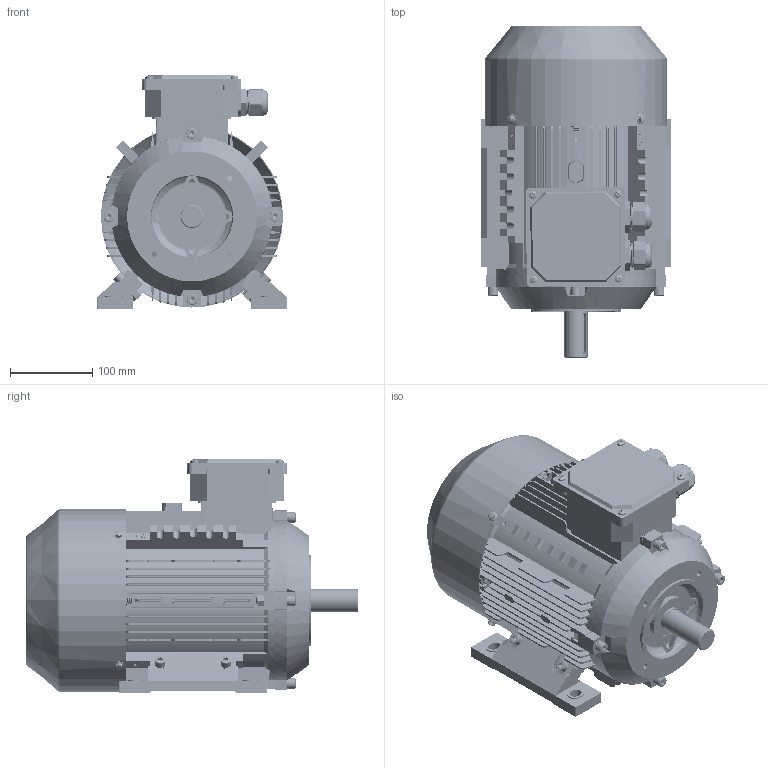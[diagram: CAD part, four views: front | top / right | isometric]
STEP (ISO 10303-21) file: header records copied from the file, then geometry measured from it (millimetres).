
FILE_DESCRIPTION (( 'STEP AP203' ), '1' );
FILE_NAME ('ME3-112B34 3D.STEP', '2024-07-12T07:13:22', ( 'User' ), ( 'China' ), 'SwSTEP 2.0', 'SolidWorks 2018', '' );
FILE_SCHEMA (( 'CONFIG_CONTROL_DESIGN' ));
Length unit declared in the file: millimetre
Products named in the file (19): M24 蹟杶; hexagon socket head cap screws gb_GB_FASTENER_SCREWS_HSHCS M8X40-S; M24 蹟杶簸; hex nuts-style normal-grades ab gb_GB_HEXAGON_TYPE10 M8X1-S; MS112-132諉盄碟裔; spring lock washers--normal type gb_GB_FASTENER_WASHER_SW 8; ME3-112 儂褲; ME3-112B14傷裔; hexagon socket head cap screws gb_GB_FASTENER_SCREWS_HSHCS M8X30-S; ME3-112菁褐; ME3-112B34  3D; 蚐猾45X30X7; ME3-112B3傷裔; ME3-112瑞欶; deep groove ball bearings gb_Rolling bearings 6306 GB 276-94; cross recessed pan head screws gb_GB_CROSS_SCREWS_TYPE1 M5X8-8  H type-S; ME3-112 转轴（386）; hex flange bolts-heavy grade b gb_GB_FASTENER_BOLT_HFBB M5X10-S; MS112-132 諉盄碟釱
Assembly tree (55 placements, depth 2):
  ME3-112B34  3D
    ME3-112 儂褲
    ME3-112菁褐  x2
    ME3-112B3傷裔
    deep groove ball bearings gb_Rolling bearings 6306 GB 276-94  x2
    ME3-112 转轴（386）
    MS112-132 諉盄碟釱
    hexagon socket head cap screws gb_GB_FASTENER_SCREWS_HSHCS M8X40-S  x8
    hex nuts-style normal-grades ab gb_GB_HEXAGON_TYPE10 M8X1-S  x11
    spring lock washers--normal type gb_GB_FASTENER_WASHER_SW 8  x4
    hexagon socket head cap screws gb_GB_FASTENER_SCREWS_HSHCS M8X30-S  x4
    蚐猾45X30X7
    ME3-112瑞欶
    cross recessed pan head screws gb_GB_CROSS_SCREWS_TYPE1 M5X8-8  H type-S  x8
    hex flange bolts-heavy grade b gb_GB_FASTENER_BOLT_HFBB M5X10-S  x4
    M24 蹟杶  x2
    M24 蹟杶簸  x2
    MS112-132諉盄碟裔
    ME3-112B14傷裔
Bounding box: 230.78 x 403.61 x 283.5 mm (x, y, z)
Volume: 2599417.2 mm3; surface area: 1302234.7 mm2
Topology: 56 solids, 57 shells, 8084 faces, 19423 edges, 11443 vertices
Faces by surface type: cone 3131, cylinder 2353, plane 2246, torus 234, sphere 76, bspline 44
Entity records: 127785 total; most frequent: CARTESIAN_POINT 33701, ORIENTED_EDGE 19590, DIRECTION 18435, EDGE_CURVE 9795, AXIS2_PLACEMENT_3D 6350, VERTEX_POINT 6241, LINE 5735, VECTOR 5735
